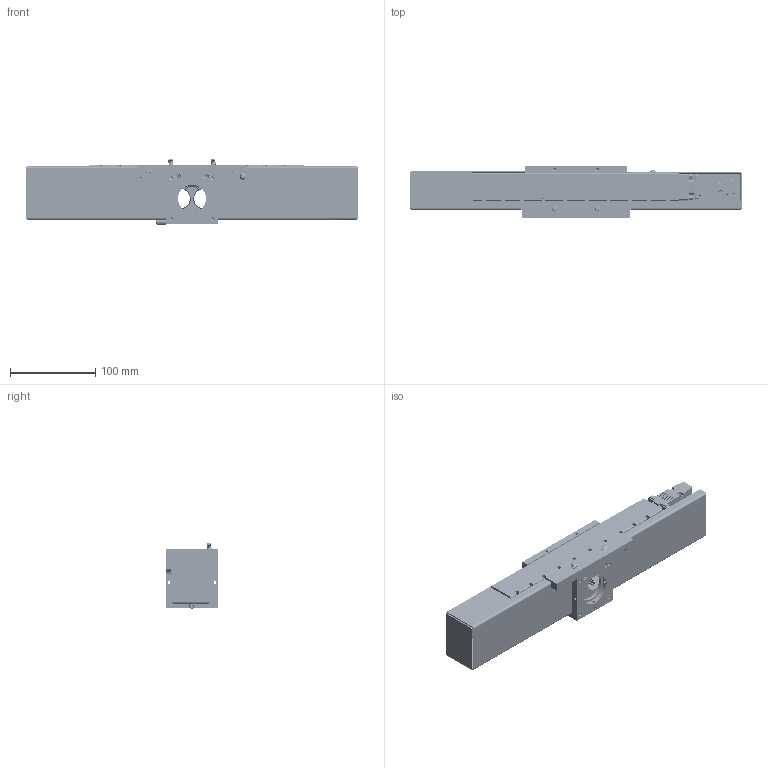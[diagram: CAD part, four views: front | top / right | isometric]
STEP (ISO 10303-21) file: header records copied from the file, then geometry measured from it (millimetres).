
FILE_DESCRIPTION (( 'STEP AP214' ), '1' );
FILE_NAME ('C60-6CUBE-SLDR (CATALOG MODEL).STEP', '2026-06-17T16:46:06', ( '' ), ( '' ), 'SwSTEP 2.0', 'SolidWorks 2025', '' );
FILE_SCHEMA (( 'AUTOMOTIVE_DESIGN' ));
Length unit declared in the file: inch
Products named in the file (1): C60-6CUBE-SLDR (CATALOG MODEL)
Bounding box: 388.93 x 60 x 76.74 mm (x, y, z)
Volume: 444936.6 mm3; surface area: 351782.4 mm2
Topology: 115 solids, 115 shells, 6628 faces, 17319 edges, 10989 vertices
Faces by surface type: cylinder 3377, plane 1882, cone 878, bspline 282, torus 161, sphere 48
Entity records: 316482 total; most frequent: CARTESIAN_POINT 125994, ORIENTED_EDGE 34282, DIRECTION 28737, EDGE_CURVE 17141, VERTEX_POINT 10977, AXIS2_PLACEMENT_3D 10715, LINE 7307, VECTOR 7307
